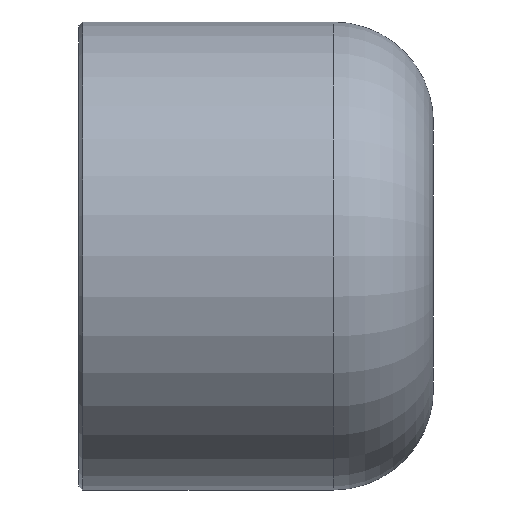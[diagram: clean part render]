
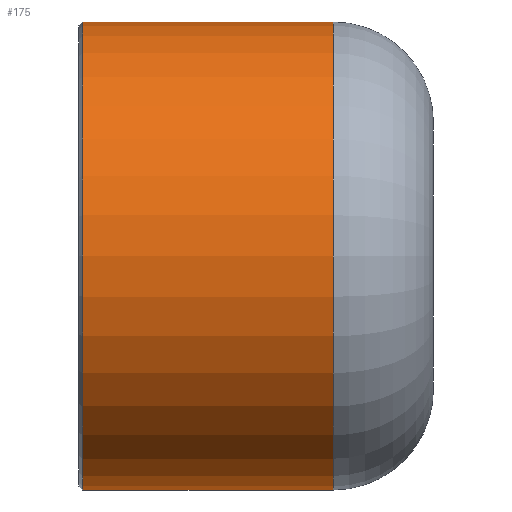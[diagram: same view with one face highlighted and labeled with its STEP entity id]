
A CAD part, front view. The second image highlights one B-rep face of the part: STEP entity #175.
In plain terms, the highlighted cylindrical face has radius 23.427 mm (diameter 46.855 mm), a full revolution.
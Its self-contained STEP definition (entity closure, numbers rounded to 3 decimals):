
#144=CARTESIAN_POINT('',(0.4,23.428,0.));
#145=VERTEX_POINT('',#144);
#146=CARTESIAN_POINT('',(0.4,0.0,0.0));
#147=DIRECTION('',(-1.0,0.0,0.0));
#148=DIRECTION('',(0.0,-1.0,0.0));
#149=AXIS2_PLACEMENT_3D('',#146,#147,#148);
#150=CIRCLE('',#149,23.428);
#151=EDGE_CURVE('',#145,#145,#150,.T.);
#156=CARTESIAN_POINT('',(12.75,0.0,0.0));
#157=DIRECTION('',(1.0,0.0,0.0));
#158=DIRECTION('',(0.0,1.0,0.0));
#159=AXIS2_PLACEMENT_3D('',#156,#157,#158);
#160=CYLINDRICAL_SURFACE('',#159,23.428);
#161=CARTESIAN_POINT('',(25.5,23.428,0.0));
#162=VERTEX_POINT('',#161);
#163=CARTESIAN_POINT('',(25.5,0.0,0.0));
#164=DIRECTION('',(1.0,0.0,0.0));
#165=DIRECTION('',(0.0,1.0,0.0));
#166=AXIS2_PLACEMENT_3D('',#163,#164,#165);
#167=CIRCLE('',#166,23.428);
#168=EDGE_CURVE('',#162,#162,#167,.T.);
#169=ORIENTED_EDGE('',*,*,#168,.F.);
#170=EDGE_LOOP('',(#169));
#171=FACE_OUTER_BOUND('',#170,.T.);
#172=ORIENTED_EDGE('',*,*,#151,.F.);
#173=EDGE_LOOP('',(#172));
#174=FACE_BOUND('',#173,.T.);
#175=ADVANCED_FACE('',(#171,#174),#160,.T.);
